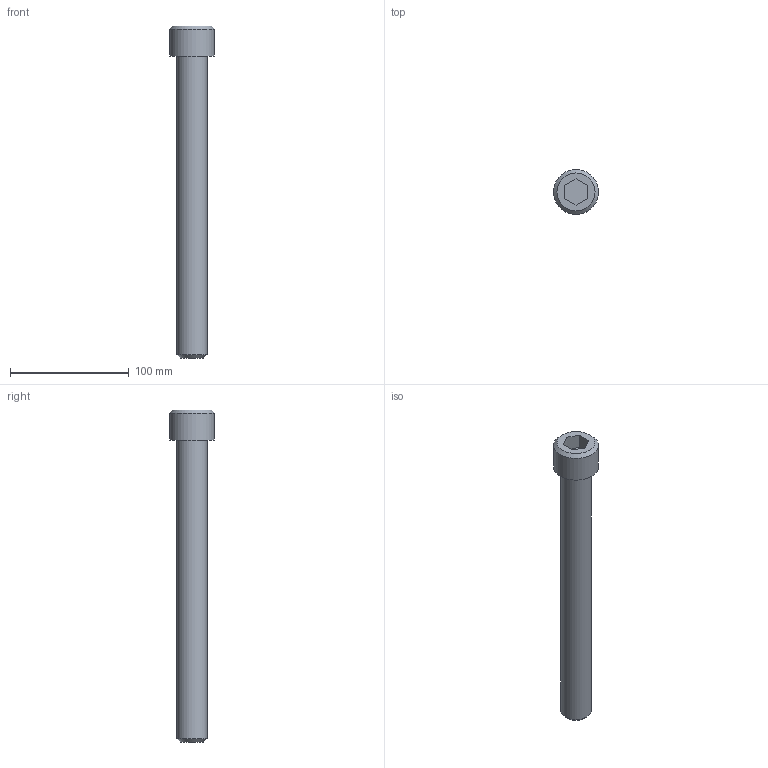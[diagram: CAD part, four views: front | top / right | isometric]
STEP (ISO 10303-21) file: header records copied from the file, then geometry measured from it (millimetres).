
FILE_DESCRIPTION((''),'2;1');
FILE_NAME('C:\Users\Stan\Desktop\import\SHCS 1-8 UNCx10.ipt.step','2011-08-18T17:44:08',(''),(''),'Autodesk Inventor 2012','Autodesk Inventor 2012','');
FILE_SCHEMA(('AUTOMOTIVE_DESIGN { 1 0 10303 214 1 1 1 1 }'));
Length unit declared in the file: inch
Products named in the file (1): SHCS 1-8 UNCx10
Bounding box: 37.8 x 37.8 x 279.25 mm (x, y, z)
Volume: 152296.6 mm3; surface area: 25981.1 mm2
Topology: 1 solids, 1 shells, 14 faces, 28 edges, 18 vertices
Faces by surface type: plane 10, cone 2, cylinder 2
Full cylindrical faces by diameter (mm): 25.4 x1, 37.795 x1
Entity records: 391 total; most frequent: DIRECTION 60, CARTESIAN_POINT 57, ORIENTED_EDGE 48, EDGE_CURVE 24, AXIS2_PLACEMENT_3D 21, EDGE_LOOP 20, VERTEX_POINT 18, VECTOR 18
